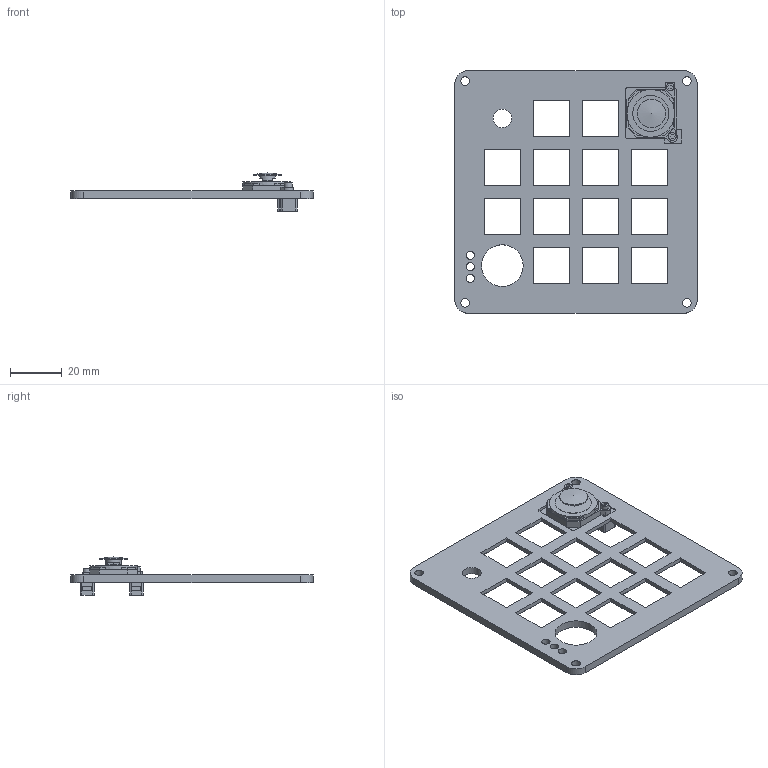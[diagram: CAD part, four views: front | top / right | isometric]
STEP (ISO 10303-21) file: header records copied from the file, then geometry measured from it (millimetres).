
FILE_DESCRIPTION(('Open CASCADE Model'),'2;1');
FILE_NAME('Open CASCADE Shape Model','2026-09-14T09:43:59',('Author'),( 'Open CASCADE'),'Open CASCADE STEP processor 7.9','Open CASCADE 7.9' ,'Unknown');
FILE_SCHEMA(('AUTOMOTIVE_DESIGN { 1 0 10303 214 1 1 1 1 }'));
Length unit declared in the file: millimetre
Products named in the file (7): INTEGRATED_V2_PHYSICAL_FIT_PENDING; PRINT_full_plate; REFERENCE_joystick_NOT_PRINTABLE; BUY_M1_6x8_A; BUY_M1_6_nut_A; BUY_M1_6x8_B; BUY_M1_6_nut_B
Assembly tree (6 placements, depth 2):
  INTEGRATED_V2_PHYSICAL_FIT_PENDING
    PRINT_full_plate
    REFERENCE_joystick_NOT_PRINTABLE
    BUY_M1_6x8_A
    BUY_M1_6_nut_A
    BUY_M1_6x8_B
    BUY_M1_6_nut_B
Bounding box: 94 x 94 x 14.8 mm (x, y, z)
Volume: 17557.2 mm3; surface area: 18144.1 mm2
Topology: 12 solids, 12 shells, 349 faces, 893 edges, 592 vertices
Faces by surface type: plane 288, cylinder 59, bspline 1, cone 1
Full cylindrical faces by diameter (mm): 1.6 x4, 2 x2, 3 x2, 3.2 x3, 3.4 x4, 6 x1, 7.2 x1, 11 x1, 14 x1, 16.2 x1, 18.5 x1
Entity records: 22668 total; most frequent: CARTESIAN_POINT 4353, DIRECTION 3350, LINE 2294, VECTOR 2294, ORIENTED_EDGE 1784, PCURVE 1784, DEFINITIONAL_REPRESENTATION 1784, EDGE_CURVE 892
